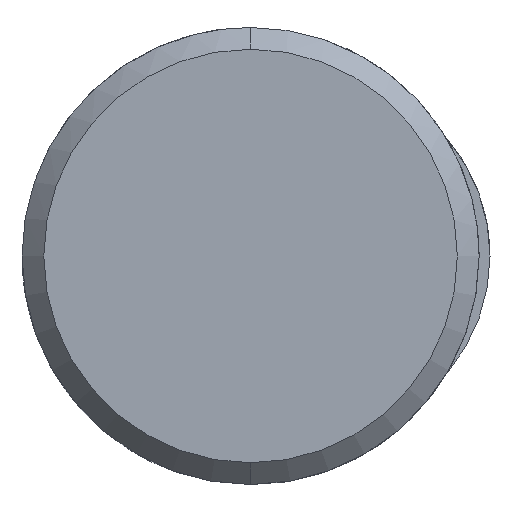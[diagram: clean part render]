
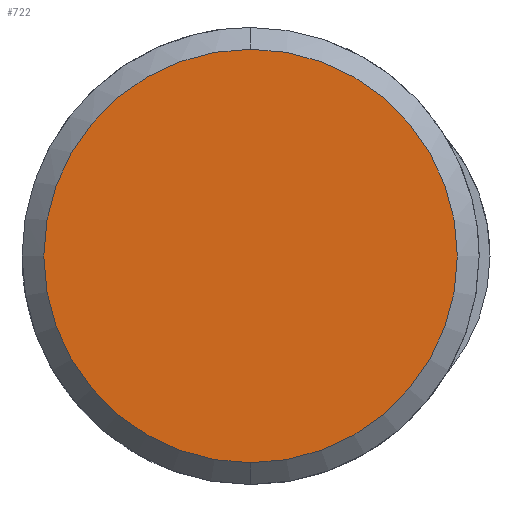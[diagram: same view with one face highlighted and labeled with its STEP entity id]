
A CAD part, left-side view. The second image highlights one B-rep face of the part: STEP entity #722.
In plain terms, the highlighted planar face has unit normal (-1, 0, 0).
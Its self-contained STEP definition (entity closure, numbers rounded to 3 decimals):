
#654=CARTESIAN_POINT('Vertex',(0.,0.,-28.5)) ;
#657=CARTESIAN_POINT('Axis2P3D Location',(0.,0.,0.)) ;
#661=CARTESIAN_POINT('Vertex',(0.,28.5,0.)) ;
#664=CARTESIAN_POINT('Axis2P3D Location',(0.,0.,0.)) ;
#668=CARTESIAN_POINT('Vertex',(0.,0.,28.5)) ;
#690=CARTESIAN_POINT('Axis2P3D Location',(0.,0.,0.)) ;
#694=CARTESIAN_POINT('Vertex',(0.,-28.5,0.)) ;
#697=CARTESIAN_POINT('Axis2P3D Location',(0.,0.,0.)) ;
#711=CARTESIAN_POINT('Axis2P3D Location',(0.,0.,0.)) ;
#658=DIRECTION('Axis2P3D Direction',(1.,0.,-0.)) ;
#665=DIRECTION('Axis2P3D Direction',(1.,0.,-0.)) ;
#691=DIRECTION('Axis2P3D Direction',(1.,0.,-0.)) ;
#698=DIRECTION('Axis2P3D Direction',(1.,0.,-0.)) ;
#712=DIRECTION('Axis2P3D Direction',(1.,0.,-0.)) ;
#713=DIRECTION('Axis2P3D XDirection',(-0.,0.,-1.)) ;
#659=AXIS2_PLACEMENT_3D('Circle Axis2P3D',#657,#658,$) ;
#666=AXIS2_PLACEMENT_3D('Circle Axis2P3D',#664,#665,$) ;
#692=AXIS2_PLACEMENT_3D('Circle Axis2P3D',#690,#691,$) ;
#699=AXIS2_PLACEMENT_3D('Circle Axis2P3D',#697,#698,$) ;
#714=AXIS2_PLACEMENT_3D('Plane Axis2P3D',#711,#712,#713) ;
#717=ORIENTED_EDGE('',*,*,#663,.F.) ;
#718=ORIENTED_EDGE('',*,*,#701,.F.) ;
#719=ORIENTED_EDGE('',*,*,#696,.F.) ;
#720=ORIENTED_EDGE('',*,*,#670,.F.) ;
#722=ADVANCED_FACE('395C-050-212/1',(#721),#715,.F.) ;
#660=CIRCLE('generated circle',#659,28.5) ;
#667=CIRCLE('generated circle',#666,28.5) ;
#693=CIRCLE('generated circle',#692,28.5) ;
#700=CIRCLE('generated circle',#699,28.5) ;
#663=EDGE_CURVE('',#655,#662,#660,.T.) ;
#670=EDGE_CURVE('',#662,#669,#667,.T.) ;
#696=EDGE_CURVE('',#669,#695,#693,.T.) ;
#701=EDGE_CURVE('',#695,#655,#700,.T.) ;
#716=EDGE_LOOP('',(#717,#718,#719,#720)) ;
#721=FACE_OUTER_BOUND('',#716,.T.) ;
#715=PLANE('Plane',#714) ;
#655=VERTEX_POINT('',#654) ;
#662=VERTEX_POINT('',#661) ;
#669=VERTEX_POINT('',#668) ;
#695=VERTEX_POINT('',#694) ;
